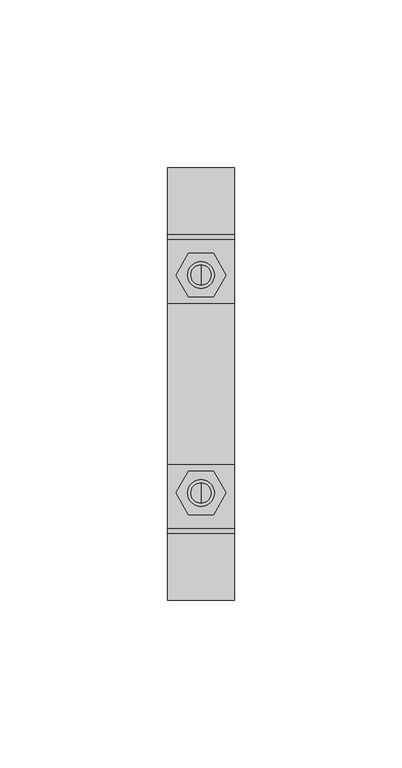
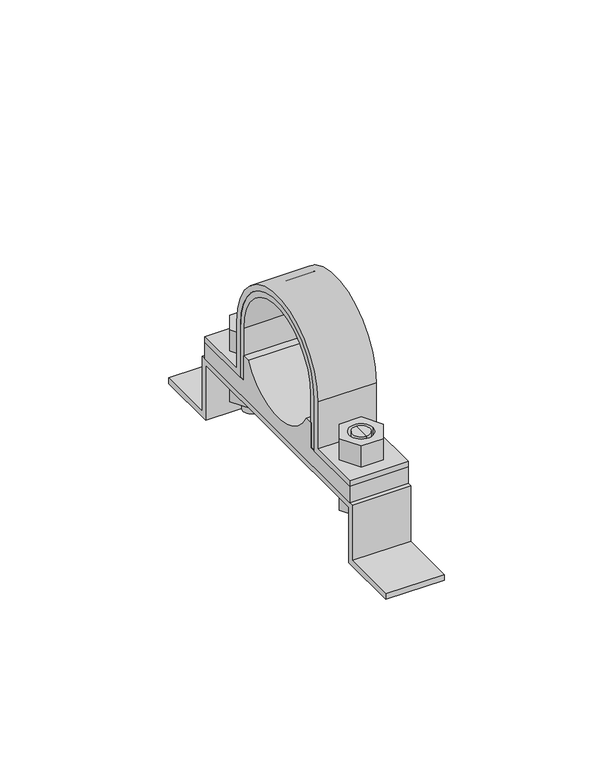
"""IFC4 building model written with IfcOpenShell, lengths in millimetres: valve geometry, Superfix DG3 Clamp : Superfix DG3 Clamp."""

from ifc_helpers import new_model, si_unit, point, frame, frame_2d, origin, place, context, project, spatial, polyline, circle_curve, trimmed, segment, composite_curve, outline, extrude, source, transform, mapped, element, save
from ifc_brep_helpers import plane_surface, cylinder_surface, advanced_brep


def valve_5af5721a(model_context):
    return source(origin(), model_context, "Body", "SolidModel", [
        advanced_brep(
        [(0.0, 35.5, 7.0), (0.0, 29.5, 7.0), (0.0, 29.5, 20.0), (0.0, 35.5, 20.0), (0.0, 32.5, 7.0)],
        [
            (0, 1, circle_curve(frame((0.0, 32.5, 7.0), z_axis=(0.0, 0.0, 1.0), x_axis=(0.0, 1.0, 0.0)), 3.0)),
            (1, 2),
            (2, 3, circle_curve(frame((0.0, 32.5, 20.0), z_axis=(0.0, 0.0, -1.0), x_axis=(0.0, 1.0, 0.0)), 3.0)),
            (3, 0),
            (1, 0, circle_curve(frame((0.0, 32.5, 7.0), z_axis=(0.0, 0.0, 1.0), x_axis=(0.0, 1.0, 0.0)), 3.0)),
            (3, 2, circle_curve(frame((0.0, 32.5, 20.0), z_axis=(0.0, 0.0, -1.0), x_axis=(0.0, 1.0, 0.0)), 3.0)),
            (0, 4),
            (4, 1),
        ],
        [
            cylinder_surface(frame((0.0, 32.5, 45.2806094), z_axis=(0.0, 0.0, 1.0), x_axis=(0.0, 1.0, 0.0)), 3.0),
            plane_surface(frame((0.0, 32.5, 7.0), z_axis=(0.0, 0.0, -1.0), x_axis=(0.0, 1.0, 0.0))),
            plane_surface(frame((13.75, -43.0, 20.0), z_axis=(0.0, 0.0, 1.0), x_axis=(-1.0, 0.0, 0.0))),
        ],
        [
            (0, [[1, 2, 3, 4]]),
            (0, [[5, -4, 6, -2]]),
            (1, [[-1, 7, 8]]),
            (1, [[-5, -8, -7]]),
            (2, [[-3, -6]]),
        ],
    ),
        advanced_brep(
        [(0.0, 29.5, 38.0), (0.0, 35.5, 38.0), (0.0, 35.5, 28.0), (0.0, 29.5, 28.0), (0.0, 32.5, 38.0)],
        [
            (0, 1, circle_curve(frame((0.0, 32.5, 38.0), z_axis=(0.0, 0.0, -1.0), x_axis=(0.0, 1.0, 0.0)), 3.0)),
            (1, 2),
            (2, 3, circle_curve(frame((0.0, 32.5, 28.0), z_axis=(0.0, 0.0, 1.0), x_axis=(0.0, 1.0, 0.0)), 3.0)),
            (3, 0),
            (1, 0, circle_curve(frame((0.0, 32.5, 38.0), z_axis=(0.0, 0.0, -1.0), x_axis=(0.0, 1.0, 0.0)), 3.0)),
            (3, 2, circle_curve(frame((0.0, 32.5, 28.0), z_axis=(0.0, 0.0, 1.0), x_axis=(0.0, 1.0, 0.0)), 3.0)),
            (0, 4),
            (4, 1),
        ],
        [
            cylinder_surface(frame((0.0, 32.5, 45.2806094), z_axis=(0.0, 0.0, 1.0), x_axis=(0.0, 1.0, 0.0)), 3.0),
            plane_surface(frame((0.0, 32.5, 38.0), z_axis=(0.0, 0.0, 1.0), x_axis=(0.0, 1.0, 0.0))),
            plane_surface(frame((13.75, 43.0, 28.0), z_axis=(0.0, 0.0, -1.0), x_axis=(-1.0, 0.0, 0.0))),
        ],
        [
            (0, [[1, 2, 3, 4]]),
            (0, [[5, -4, 6, -2]]),
            (1, [[-1, 7, 8]]),
            (1, [[-5, -8, -7]]),
            (2, [[-3, -6]]),
        ],
    ),
        advanced_brep(
        [(0.0, -35.5, 38.0), (0.0, -29.5, 38.0), (0.0, -29.5, 28.0), (0.0, -35.5, 28.0), (0.0, -32.5, 38.0)],
        [
            (0, 1, circle_curve(frame((0.0, -32.5, 38.0), z_axis=(0.0, 0.0, -1.0), x_axis=(0.0, -1.0, 0.0)), 3.0)),
            (1, 2),
            (2, 3, circle_curve(frame((0.0, -32.5, 28.0), z_axis=(0.0, 0.0, 1.0), x_axis=(0.0, -1.0, 0.0)), 3.0)),
            (3, 0),
            (1, 0, circle_curve(frame((0.0, -32.5, 38.0), z_axis=(0.0, 0.0, -1.0), x_axis=(0.0, -1.0, 0.0)), 3.0)),
            (3, 2, circle_curve(frame((0.0, -32.5, 28.0), z_axis=(0.0, 0.0, 1.0), x_axis=(0.0, -1.0, 0.0)), 3.0)),
            (0, 4),
            (4, 1),
        ],
        [
            cylinder_surface(frame((0.0, -32.5, 45.2806094), z_axis=(0.0, 0.0, -1.0), x_axis=(0.0, -1.0, 0.0)), 3.0),
            plane_surface(frame((0.0, -32.5, 38.0), z_axis=(0.0, 0.0, 1.0), x_axis=(0.0, -1.0, 0.0))),
            plane_surface(frame((13.75, 43.0, 28.0), z_axis=(0.0, 0.0, -1.0), x_axis=(-1.0, 0.0, 0.0))),
        ],
        [
            (0, [[1, 2, 3, 4]]),
            (0, [[5, -4, 6, -2]]),
            (1, [[-1, 7, 8]]),
            (1, [[-5, -8, -7]]),
            (2, [[-3, -6]]),
        ],
    ),
        advanced_brep(
        [(0.0, -29.5, 7.0), (0.0, -35.5, 7.0), (0.0, -35.5, 20.0), (0.0, -29.5, 20.0), (0.0, -32.5, 7.0)],
        [
            (0, 1, circle_curve(frame((0.0, -32.5, 7.0), z_axis=(0.0, 0.0, 1.0), x_axis=(0.0, -1.0, 0.0)), 3.0)),
            (1, 2),
            (2, 3, circle_curve(frame((0.0, -32.5, 20.0), z_axis=(0.0, 0.0, -1.0), x_axis=(0.0, -1.0, 0.0)), 3.0)),
            (3, 0),
            (1, 0, circle_curve(frame((0.0, -32.5, 7.0), z_axis=(0.0, 0.0, 1.0), x_axis=(0.0, -1.0, 0.0)), 3.0)),
            (3, 2, circle_curve(frame((0.0, -32.5, 20.0), z_axis=(0.0, 0.0, -1.0), x_axis=(0.0, -1.0, 0.0)), 3.0)),
            (0, 4),
            (4, 1),
        ],
        [
            cylinder_surface(frame((0.0, -32.5, 45.2806094), z_axis=(0.0, 0.0, -1.0), x_axis=(0.0, -1.0, 0.0)), 3.0),
            plane_surface(frame((0.0, -32.5, 7.0), z_axis=(0.0, 0.0, -1.0), x_axis=(0.0, -1.0, 0.0))),
            plane_surface(frame((13.75, -43.0, 20.0), z_axis=(0.0, 0.0, 1.0), x_axis=(-1.0, 0.0, 0.0))),
        ],
        [
            (0, [[1, 2, 3, 4]]),
            (0, [[5, -4, 6, -2]]),
            (1, [[-1, 7, 8]]),
            (1, [[-5, -8, -7]]),
            (2, [[-3, -6]]),
        ],
    ),
        extrude(outline(composite_curve([segment(trimmed(circle_curve(frame_2d((0.0, 47.0)), 22.0), [point((22.0, 47.0))], [point((-22.0, 47.0))], True, "CARTESIAN"), True, "CONTINUOUS"), segment(polyline([(-22.0, 47.0), (-22.0, 28.0), (-43.0, 28.0), (-43.0, 30.0), (-24.0, 30.0), (-24.0, 47.0)]), True, "CONTINUOUS"), segment(trimmed(circle_curve(frame_2d((0.0, 47.0)), 24.0), [point((-24.0, 47.0))], [point((24.0, 47.0))], False, "CARTESIAN"), True, "CONTINUOUS"), segment(polyline([(24.0, 47.0), (24.0, 30.0), (43.0, 30.0), (43.0, 28.0), (22.0, 28.0), (22.0, 47.0)]), True, "CONTINUOUS")], self_intersect=False)), frame((-10.0, 0.0, 0.0), z_axis=(1.0, 0.0, 0.0), x_axis=(0.0, 1.0, 0.0)), (0.0, 0.0, 1.0), 20.0),
        extrude(outline(polyline([(7.5055535, -32.5), (3.7527767, -39.0), (-3.7527767, -39.0), (-7.5055535, -32.5), (-3.7527767, -26.0), (3.7527767, -26.0), (7.5055535, -32.5)]), holes=[composite_curve([segment(trimmed(circle_curve(frame_2d((0.0, -32.5)), 4.0), [point((4.0, -32.5))], [point((-4.0, -32.5))], True, "CARTESIAN"), True, "CONTINUOUS"), segment(trimmed(circle_curve(frame_2d((0.0, -32.5)), 4.0), [point((-4.0, -32.5))], [point((4.0, -32.5))], True, "CARTESIAN"), True, "CONTINUOUS")], self_intersect=False)]), frame((0.0, 0.0, 30.0), z_axis=(0.0, 0.0, 1.0), x_axis=(1.0, 0.0, 0.0)), (0.0, 0.0, 1.0), 8.0),
        extrude(outline(polyline([(7.5055535, 32.5), (3.7527767, 26.0), (-3.7527767, 26.0), (-7.5055535, 32.5), (-3.7527767, 39.0), (3.7527767, 39.0), (7.5055535, 32.5)]), holes=[composite_curve([segment(trimmed(circle_curve(frame_2d((0.0, 32.5)), 4.0), [point((4.0, 32.5))], [point((-4.0, 32.5))], True, "CARTESIAN"), True, "CONTINUOUS"), segment(trimmed(circle_curve(frame_2d((0.0, 32.5)), 4.0), [point((-4.0, 32.5))], [point((4.0, 32.5))], True, "CARTESIAN"), True, "CONTINUOUS")], self_intersect=False)]), frame((0.0, 0.0, 30.0), z_axis=(0.0, 0.0, 1.0), x_axis=(1.0, 0.0, 0.0)), (0.0, 0.0, 1.0), 8.0),
        extrude(outline(polyline([(7.5055535, -32.5), (3.7527767, -39.0), (-3.7527767, -39.0), (-7.5055535, -32.5), (-3.7527767, -26.0), (3.7527767, -26.0), (7.5055535, -32.5)]), holes=[composite_curve([segment(trimmed(circle_curve(frame_2d((0.0, -32.5)), 4.0), [point((4.0, -32.5))], [point((-4.0, -32.5))], True, "CARTESIAN"), True, "CONTINUOUS"), segment(trimmed(circle_curve(frame_2d((0.0, -32.5)), 4.0), [point((-4.0, -32.5))], [point((4.0, -32.5))], True, "CARTESIAN"), True, "CONTINUOUS")], self_intersect=False)]), frame((0.0, 0.0, 12.0), z_axis=(0.0, 0.0, 1.0), x_axis=(1.0, 0.0, 0.0)), (0.0, 0.0, 1.0), 8.0),
        extrude(outline(polyline([(7.5055535, 32.5), (3.7527767, 26.0), (-3.7527767, 26.0), (-7.5055535, 32.5), (-3.7527767, 39.0), (3.7527767, 39.0), (7.5055535, 32.5)]), holes=[composite_curve([segment(trimmed(circle_curve(frame_2d((0.0, 32.5)), 4.0), [point((4.0, 32.5))], [point((-4.0, 32.5))], True, "CARTESIAN"), True, "CONTINUOUS"), segment(trimmed(circle_curve(frame_2d((0.0, 32.5)), 4.0), [point((-4.0, 32.5))], [point((4.0, 32.5))], True, "CARTESIAN"), True, "CONTINUOUS")], self_intersect=False)]), frame((0.0, 0.0, 12.0), z_axis=(0.0, 0.0, 1.0), x_axis=(1.0, 0.0, 0.0)), (0.0, 0.0, 1.0), 8.0),
        extrude(outline(composite_curve([segment(polyline([(-43.0, 22.0), (-43.0, 28.0), (-20.0, 28.0), (-20.0, 37.0), (-17.3205081, 37.0)]), True, "CONTINUOUS"), segment(trimmed(circle_curve(frame_2d((0.0, 47.0)), 20.0), [point((-17.3205081, 37.0))], [point((17.3205081, 37.0))], True, "CARTESIAN"), True, "CONTINUOUS"), segment(polyline([(17.3205081, 37.0), (20.0, 37.0), (20.0, 28.0), (43.0, 28.0), (43.0, 22.0), (-43.0, 22.0)]), True, "CONTINUOUS")], self_intersect=False)), frame((-10.0, 0.0, 0.0), z_axis=(1.0, 0.0, 0.0), x_axis=(0.0, 1.0, 0.0)), (0.0, 0.0, 1.0), 20.0),
        extrude(outline(polyline([(-64.5, 2.0), (-44.5, 2.0), (-44.5, 22.0), (0.0, 22.0), (44.5, 22.0), (44.5, 2.0), (64.5, 2.0), (64.5, 0.0), (42.5, 0.0), (42.5, 20.0), (0.0, 20.0), (-42.5, 20.0), (-42.5, 0.0), (-64.5, 0.0), (-64.5, 2.0)])), frame((-10.0, 0.0, 0.0), z_axis=(1.0, 0.0, 0.0), x_axis=(0.0, 1.0, 0.0)), (0.0, 0.0, 1.0), 20.0),
        extrude(outline(composite_curve([segment(trimmed(circle_curve(frame_2d((0.0, 47.0)), 20.0), [point((20.0, 47.0))], [point((-20.0, 47.0))], True, "CARTESIAN"), True, "CONTINUOUS"), segment(polyline([(-20.0, 47.0), (-20.0, 28.0), (-22.0, 28.0), (-22.0, 47.0)]), True, "CONTINUOUS"), segment(trimmed(circle_curve(frame_2d((0.0, 47.0)), 22.0), [point((-22.0, 47.0))], [point((22.0, 47.0))], False, "CARTESIAN"), True, "CONTINUOUS"), segment(polyline([(22.0, 47.0), (22.0, 28.0), (20.0, 28.0), (20.0, 47.0)]), True, "CONTINUOUS")], self_intersect=False)), frame((-10.0, 0.0, 0.0), z_axis=(1.0, 0.0, 0.0), x_axis=(0.0, 1.0, 0.0)), (0.0, 0.0, 1.0), 20.0),
    ])


if __name__ == "__main__":
    model = new_model("IFC4")
    model_context = context("Model", 3, world=origin())
    ifc_project = project(units=[si_unit("LENGTHUNIT", "METRE", prefix="MILLI")], contexts=[model_context])
    site = spatial("IfcSite", under=ifc_project)
    building = spatial("IfcBuilding", under=site)
    placement = place(None, origin())
    valve_shape = valve_5af5721a(model_context)
    element("IfcValve", 1, ObjectType="Superfix DG3 Clamp : Superfix DG3 Clamp", at=placement, inside=building, context=model_context, shape_type="MappedRepresentation", body=[
        mapped(valve_shape, transform((0.0, 0.0, 0.0), x_axis=(1.0, 0.0, 0.0), y_axis=(0.0, 1.0, 0.0), z_axis=(0.0, 0.0, 1.0))),
    ])
    save(model, "model.ifc")
